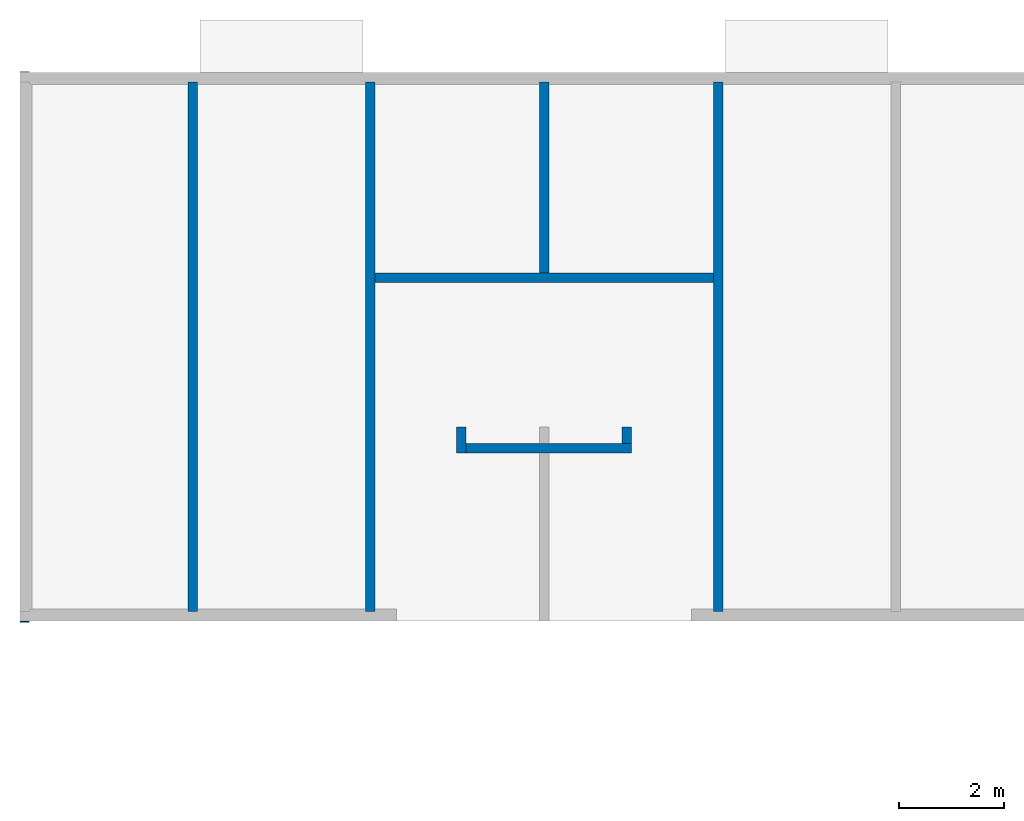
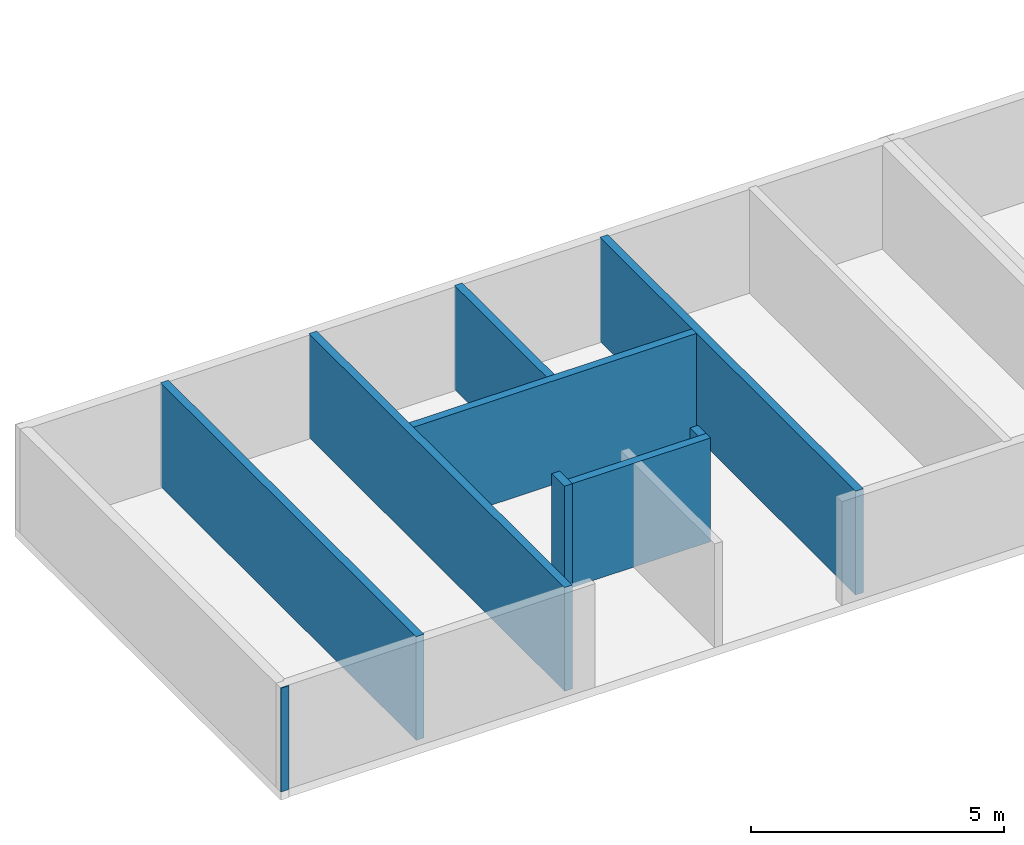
# One storey, part 1 of 9: 9 walls.
"""IFC2X3 building model written with IfcOpenShell, lengths in metres."""

from ifc_helpers import new_model, si_unit, frame, frame_2d, origin, origin_with_axes, place, context, project, spatial, rectangle, extrude, element, save


model = new_model("IFC2X3")

# Units and contexts
model_context = context("Model", 3, precision=1e-06, world=origin())
ifc_project = project(units=[si_unit("LENGTHUNIT", "METRE"), si_unit("PLANEANGLEUNIT", "RADIAN")], contexts=[model_context])

# Site, building, storey
site = spatial("IfcSite", under=ifc_project, CompositionType="ELEMENT")
building = spatial("IfcBuilding", under=site, CompositionType="ELEMENT")
storey = spatial("IfcBuildingStorey", under=building, Name="r+2", CompositionType="ELEMENT", Elevation=5.4)

# Walls
placement = place(None, origin())
wall_1_placement = place(placement, frame((13.20999947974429, 6.650077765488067, 5.4), z_axis=(0.0, 0.0, 1.0), x_axis=(-1.0, 0.0, 0.0)))
element("IfcWall", 1, at=wall_1_placement, inside=storey, context=model_context, shape_type="SweptSolid", body=[
    extrude(rectangle(XDim=6.449999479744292, YDim=0.18, at=frame_2d((3.224999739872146, 0.09), x_axis=(1.0, 0.0)), kind="CURVE"), origin_with_axes(), (0.0, 0.0, 1.0), 2.5),
])
wall_2_placement = place(placement, frame((11.46999945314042, 3.720077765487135, 5.4), z_axis=(0.0, 0.0, 1.0), x_axis=(0.0, -1.0, 0.0)))
element("IfcWall", 2, at=wall_2_placement, inside=storey, context=model_context, shape_type="SweptSolid", body=[
    extrude(rectangle(XDim=0.32, YDim=0.18, at=frame_2d((0.16, 0.09), x_axis=(1.0, 0.0)), kind="CURVE"), origin_with_axes(), (0.0, 0.0, 1.0), 2.5),
])
wall_3_placement = place(placement, frame((10.075000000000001, 6.650077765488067, 5.4), z_axis=(0.0, 0.0, 1.0), x_axis=(0.0, 1.0, 0.0)))
element("IfcWall", 3, at=wall_3_placement, inside=storey, context=model_context, shape_type="SweptSolid", body=[
    extrude(rectangle(XDim=3.639999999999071, YDim=0.18, at=frame_2d((1.819999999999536, 0.09), x_axis=(1.0, 0.0)), kind="CURVE"), origin_with_axes(), (0.0, 0.0, 1.0), 2.5),
])
for number, where, z_axis, x_axis in (
    (4, (6.759999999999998, 0.200077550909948, 5.4), (0.0, 0.0, 1.0), (0.0, 1.0, 0.0)),
    (5, (13.38999993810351, 0.200077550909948, 5.4), (0.0, 0.0, 1.0), (0.0, 1.0, 0.0)),
):
    element("IfcWall", number, at=place(placement, frame(where, z_axis=z_axis, x_axis=x_axis)), inside=storey, context=model_context, shape_type="SweptSolid", body=[
        extrude(rectangle(XDim=10.090000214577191, YDim=0.18, at=frame_2d((5.045000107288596, 0.09), x_axis=(1.0, 0.0)), kind="CURVE"), origin_with_axes(), (0.0, 0.0, 1.0), 2.5),
    ])
wall_4_placement = place(placement, frame((11.64999945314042, 3.400077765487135, 5.4), z_axis=(0.0, 0.0, 1.0), x_axis=(-1.0, 0.0, 0.0)))
element("IfcWall", 6, at=wall_4_placement, inside=storey, context=model_context, shape_type="SweptSolid", body=[
    extrude(rectangle(XDim=3.150000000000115, YDim=0.18, at=frame_2d((1.575000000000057, 0.09), x_axis=(1.0, 0.0)), kind="CURVE"), origin_with_axes(), (0.0, 0.0, 1.0), 2.5),
])
wall_5_placement = place(placement, frame((3.38, 0.200077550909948, 5.4), z_axis=(0.0, 0.0, 1.0), x_axis=(0.0, 1.0, 0.0)))
element("IfcWall", 7, at=wall_5_placement, inside=storey, context=model_context, shape_type="SweptSolid", body=[
    extrude(rectangle(XDim=10.090000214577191, YDim=0.18, at=frame_2d((5.045000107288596, 0.09), x_axis=(1.0, 0.0)), kind="CURVE"), origin_with_axes(), (0.0, 0.0, 1.0), 2.5),
])
wall_6_placement = place(placement, frame((8.499999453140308, 3.220077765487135, 5.4), z_axis=(0.0, 0.0, 1.0), x_axis=(0.0, 1.0, 0.0)))
element("IfcWall", 8, at=wall_6_placement, inside=storey, context=model_context, shape_type="SweptSolid", body=[
    extrude(rectangle(XDim=0.5, YDim=0.18, at=frame_2d((0.25, 0.09), x_axis=(1.0, 0.0)), kind="CURVE"), origin_with_axes(), (0.0, 0.0, 1.0), 2.5),
])
wall_7_placement = place(placement, frame((-6e-15, 0.020077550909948, 5.4), z_axis=(0.0, 0.0, 1.0), x_axis=(1.0, 0.0, 0.0)))
element("IfcWall", 9, at=wall_7_placement, inside=storey, context=model_context, shape_type="SweptSolid", body=[
    extrude(rectangle(XDim=0.18, YDim=0.020077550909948, at=frame_2d((0.09, 0.010038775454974), x_axis=(1.0, 0.0)), kind="CURVE"), frame((0.0, -0.020077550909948, 0.0), z_axis=(0.0, 0.0, 1.0), x_axis=(1.0, 0.0, 0.0)), (0.0, 0.0, 1.0), 2.5),
])

save(model, "model.ifc")
